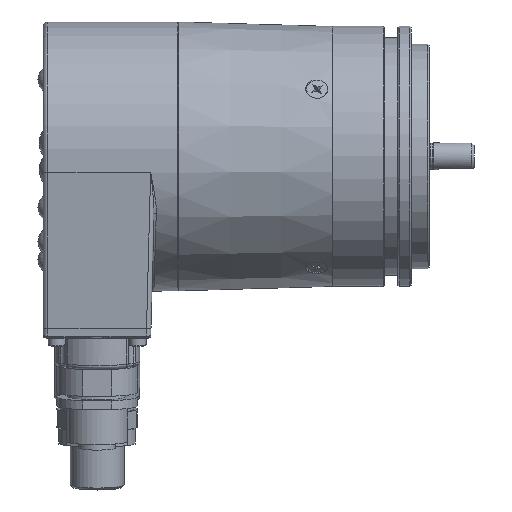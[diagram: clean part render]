
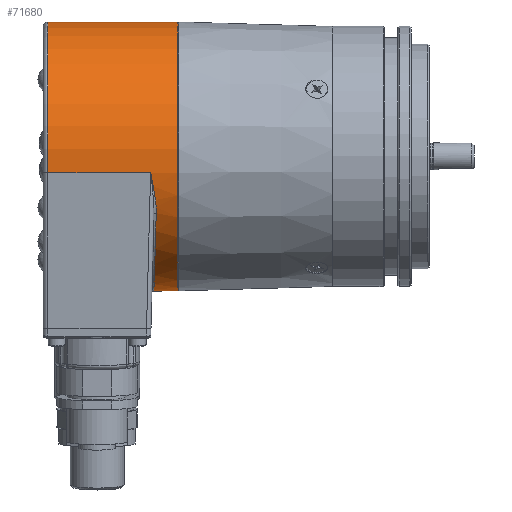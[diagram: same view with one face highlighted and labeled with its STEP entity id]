
A CAD part, top view. The second image highlights one B-rep face of the part: STEP entity #71680.
In plain terms, the highlighted cylindrical face has radius 30 mm (diameter 60 mm), a full revolution.
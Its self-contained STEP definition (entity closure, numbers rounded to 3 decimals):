
#560 = EDGE_CURVE ( 'NONE', #54256, #49305, #31563, .T. ) ;
#1396 = CARTESIAN_POINT ( 'NONE',  ( -33.006, -4.042, 29.729 ) ) ;
#1619 = VERTEX_POINT ( 'NONE', #63594 ) ;
#1655 = CARTESIAN_POINT ( 'NONE',  ( -32.7, -5.585, 29.478 ) ) ;
#2022 = CARTESIAN_POINT ( 'NONE',  ( -31.994, -2.596, -29.898 ) ) ;
#3820 = CARTESIAN_POINT ( 'NONE',  ( -27., -29.776, -3.656 ) ) ;
#7537 = CARTESIAN_POINT ( 'NONE',  ( -32.341, -7.49, 29.061 ) ) ;
#7904 = CARTESIAN_POINT ( 'NONE',  ( -32.341, -0.237, -30.009 ) ) ;
#8271 = CARTESIAN_POINT ( 'NONE',  ( -33.084, -3.656, 29.776 ) ) ;
#8390 = EDGE_CURVE ( 'NONE', #54256, #21187, #42936, .T. ) ;
#10424 =( BOUNDED_CURVE ( )  B_SPLINE_CURVE ( 3, ( #47161, #52768, #70630, #35655 ),
 .UNSPECIFIED., .F., .F. ) 
 B_SPLINE_CURVE_WITH_KNOTS ( ( 4, 4 ),
 ( 5.027, 7.539 ),
 .UNSPECIFIED. ) 
 CURVE ( )  GEOMETRIC_REPRESENTATION_ITEM ( )  RATIONAL_B_SPLINE_CURVE ( ( 1., 0.54, 0.54, 1. ) ) 
 REPRESENTATION_ITEM ( '' )  );
#12310 = AXIS2_PLACEMENT_3D ( 'NONE', #65563, #30546, #24721 ) ;
#12948 = ORIENTED_EDGE ( 'NONE', *, *, #22730, .F. ) ;
#13426 = CARTESIAN_POINT ( 'NONE',  ( -31.994, -9.752, 28.382 ) ) ;
#13747 = DIRECTION ( 'NONE',  ( -1., 0., 0. ) ) ;
#13800 = CARTESIAN_POINT ( 'NONE',  ( -32.773, 2.102, -29.936 ) ) ;
#15558 = B_SPLINE_CURVE_WITH_KNOTS ( 'NONE', 3,
 ( #31139, #66152, #37000, #2022, #42876, #7904, #48757, #13800, #54659, #19714 ),
 .UNSPECIFIED., .F., .F.,
 ( 4, 2, 2, 2, 4 ),
 ( 0., 0.002, 0.005, 0.007, 0.01 ),
 .UNSPECIFIED. ) ;
#16192 = CARTESIAN_POINT ( 'NONE',  ( -31.831, -12.699, 27.18 ) ) ;
#16984 = VECTOR ( 'NONE', #38757, 1000. ) ;
#17877 = DIRECTION ( 'NONE',  ( 1., 0., 0. ) ) ;
#19342 = CARTESIAN_POINT ( 'NONE',  ( -31.81, -11.975, 27.518 ) ) ;
#19385 = CARTESIAN_POINT ( 'NONE',  ( -56., -3.656, 29.776 ) ) ;
#19714 = CARTESIAN_POINT ( 'NONE',  ( -33.084, 3.656, -29.776 ) ) ;
#21187 = VERTEX_POINT ( 'NONE', #19385 ) ;
#22259 = ORIENTED_EDGE ( 'NONE', *, *, #27204, .T. ) ;
#22730 = EDGE_CURVE ( 'NONE', #29211, #29211, #46597, .T. ) ;
#23067 = CARTESIAN_POINT ( 'NONE',  ( -33.084, 3.656, -29.776 ) ) ;
#24721 = DIRECTION ( 'NONE',  ( 0., 0.993, 0.122 ) ) ;
#26413 = EDGE_LOOP ( 'NONE', ( #39838, #70374, #22259, #73097, #51255, #61627 ) ) ;
#27040 = EDGE_CURVE ( 'NONE', #61174, #1619, #30677, .T. ) ;
#27204 = EDGE_CURVE ( 'NONE', #49305, #53007, #10424, .T. ) ;
#29109 = EDGE_CURVE ( 'NONE', #53007, #61174, #15558, .T. ) ;
#29211 = VERTEX_POINT ( 'NONE', #3820 ) ;
#30546 = DIRECTION ( 'NONE',  ( -1., 0., 0. ) ) ;
#30677 = LINE ( 'NONE', #73729, #16984 ) ;
#31139 = CARTESIAN_POINT ( 'NONE',  ( -31.831, -5.747, -29.444 ) ) ;
#31563 = B_SPLINE_CURVE_WITH_KNOTS ( 'NONE', 3,
 ( #59916, #1396, #71597, #36637, #1655, #42514, #7537, #48383, #13426, #54294, #19342, #60164 ),
 .UNSPECIFIED., .F., .F.,
 ( 4, 2, 2, 2, 2, 4 ),
 ( 0., 0.001, 0.002, 0.005, 0.007, 0.009 ),
 .UNSPECIFIED. ) ;
#32237 = DIRECTION ( 'NONE',  ( 1., 0., 0. ) ) ;
#32648 = CIRCLE ( 'NONE', #45945, 30. ) ;
#33577 = EDGE_LOOP ( 'NONE', ( #12948 ) ) ;
#35655 = CARTESIAN_POINT ( 'NONE',  ( -31.831, -5.747, -29.444 ) ) ;
#36637 = CARTESIAN_POINT ( 'NONE',  ( -32.775, -5.201, 29.548 ) ) ;
#37000 = CARTESIAN_POINT ( 'NONE',  ( -31.851, -4.175, -29.719 ) ) ;
#38757 = DIRECTION ( 'NONE',  ( -1., 0., 0. ) ) ;
#39838 = ORIENTED_EDGE ( 'NONE', *, *, #8390, .F. ) ;
#39893 = CYLINDRICAL_SURFACE ( 'NONE', #12310, 30. ) ;
#41068 = VECTOR ( 'NONE', #13747, 1000. ) ;
#41761 = FACE_OUTER_BOUND ( 'NONE', #33577, .T. ) ;
#42514 = CARTESIAN_POINT ( 'NONE',  ( -32.48, -6.731, 29.245 ) ) ;
#42876 = CARTESIAN_POINT ( 'NONE',  ( -32.098, -1.806, -29.956 ) ) ;
#42936 = LINE ( 'NONE', #48710, #41068 ) ;
#43256 = EDGE_CURVE ( 'NONE', #1619, #21187, #32648, .T. ) ;
#44758 = CARTESIAN_POINT ( 'NONE',  ( -31.831, -5.747, -29.444 ) ) ;
#45945 = AXIS2_PLACEMENT_3D ( 'NONE', #67240, #32237, #73052 ) ;
#46597 = CIRCLE ( 'NONE', #64868, 30. ) ;
#47161 = CARTESIAN_POINT ( 'NONE',  ( -31.831, -12.699, 27.18 ) ) ;
#48383 = CARTESIAN_POINT ( 'NONE',  ( -32.098, -8.999, 28.629 ) ) ;
#48710 = CARTESIAN_POINT ( 'NONE',  ( -33., -3.656, 29.776 ) ) ;
#48757 = CARTESIAN_POINT ( 'NONE',  ( -32.479, 0.544, -30.005 ) ) ;
#49305 = VERTEX_POINT ( 'NONE', #16192 ) ;
#51255 = ORIENTED_EDGE ( 'NONE', *, *, #27040, .T. ) ;
#52768 = CARTESIAN_POINT ( 'NONE',  ( -32.722, -44.614, 12.268 ) ) ;
#52789 = CARTESIAN_POINT ( 'NONE',  ( -27., 0., 0. ) ) ;
#53007 = VERTEX_POINT ( 'NONE', #44758 ) ;
#54256 = VERTEX_POINT ( 'NONE', #8271 ) ;
#54294 = CARTESIAN_POINT ( 'NONE',  ( -31.851, -11.241, 27.826 ) ) ;
#54659 = CARTESIAN_POINT ( 'NONE',  ( -32.928, 2.88, -29.872 ) ) ;
#58693 = DIRECTION ( 'NONE',  ( 0., -0.993, -0.122 ) ) ;
#59916 = CARTESIAN_POINT ( 'NONE',  ( -33.084, -3.656, 29.776 ) ) ;
#60164 = CARTESIAN_POINT ( 'NONE',  ( -31.831, -12.699, 27.18 ) ) ;
#60986 = FACE_OUTER_BOUND ( 'NONE', #26413, .T. ) ;
#61174 = VERTEX_POINT ( 'NONE', #23067 ) ;
#61627 = ORIENTED_EDGE ( 'NONE', *, *, #43256, .T. ) ;
#63594 = CARTESIAN_POINT ( 'NONE',  ( -56., 3.656, -29.776 ) ) ;
#64868 = AXIS2_PLACEMENT_3D ( 'NONE', #52789, #17877, #58693 ) ;
#65563 = CARTESIAN_POINT ( 'NONE',  ( -27., 0., 0. ) ) ;
#66152 = CARTESIAN_POINT ( 'NONE',  ( -31.81, -4.962, -29.598 ) ) ;
#67240 = CARTESIAN_POINT ( 'NONE',  ( -56., 0., 0. ) ) ;
#70374 = ORIENTED_EDGE ( 'NONE', *, *, #560, .T. ) ;
#70630 = CARTESIAN_POINT ( 'NONE',  ( -32.722, -40.321, -22.696 ) ) ;
#71597 = CARTESIAN_POINT ( 'NONE',  ( -32.928, -4.431, 29.674 ) ) ;
#71680 = ADVANCED_FACE ( 'NONE', ( #60986, #41761 ), #39893, .T. ) ;
#73052 = DIRECTION ( 'NONE',  ( 0., -0.993, -0.122 ) ) ;
#73097 = ORIENTED_EDGE ( 'NONE', *, *, #29109, .T. ) ;
#73729 = CARTESIAN_POINT ( 'NONE',  ( -33., 3.656, -29.776 ) ) ;
